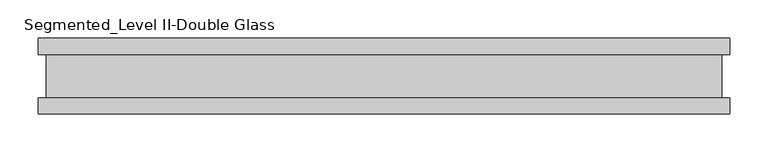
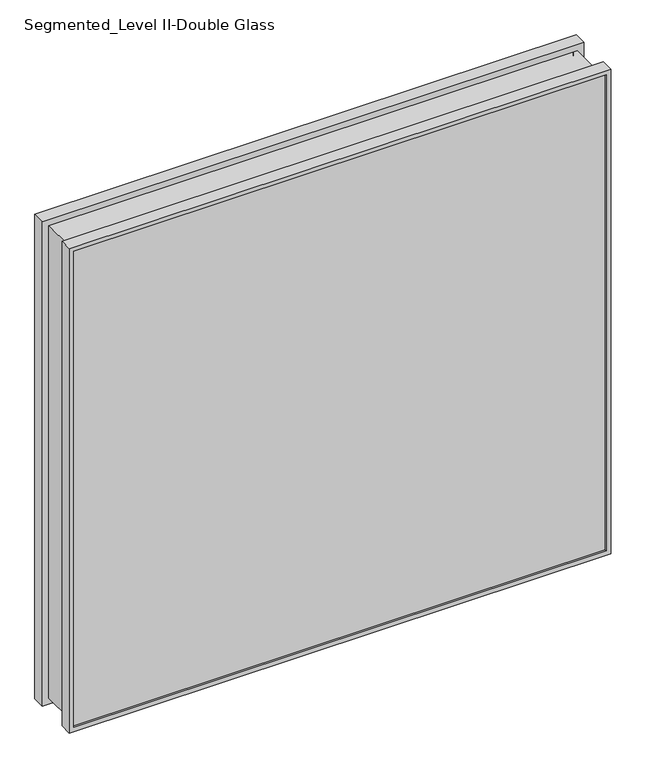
"""IFC4 building model written with IfcOpenShell, lengths in millimetres: proxy geometry, Panel-Fascia-Teknion-Altos-Double_Glass : Segmented_Level II-Double Glass."""

from ifc_helpers import new_model, si_unit, frame, origin, place, context, project, spatial, polyline, ellipse_curve, outline, extrude, source, transform, mapped, element, save
from ifc_brep_helpers import plane_surface, cylinder_surface, advanced_brep


def segmented_level_ii_double_glass_1e1767e1(model_context):
    return source(origin(), model_context, "Body", "SolidModel", [
        advanced_brep(
        [(454.6203125, 50.0558594, 862.965), (454.6203125, 28.2698798, 862.965), (454.6203125, 28.2698798, 3.175), (454.6203125, 50.0558594, 3.175), (447.1851047, 47.1322551, 855.5297922), (447.1851047, 50.0558594, 855.5297922), (447.1851047, 50.0558594, 10.6102078), (447.1851047, 47.1322551, 10.6102078), (452.4677862, 41.1791301, 860.8124737), (452.4677862, 47.1322551, 860.8124737), (452.4677862, 47.1322551, 5.3275263), (452.4677862, 41.1791301, 5.3275263), (446.662897, -40.9277344, 855.0075845), (446.662897, 41.1791301, 855.0075845), (446.662897, 41.1791301, 11.1324155), (446.662897, -40.9277344, 11.1324155), (452.4677862, -46.8808594, 860.8124737), (452.4677862, -40.9277344, 860.8124737), (452.4677862, -40.9277344, 5.3275263), (452.4677862, -46.8808594, 5.3275263), (447.1851047, -50.0558594, 855.5297922), (447.1851047, -46.8808594, 855.5297922), (447.1851047, -46.8808594, 10.6102078), (447.1851047, -50.0558594, 10.6102078), (454.6203125, -28.8801202, 862.965), (454.6203125, -50.0558594, 862.965), (454.6203125, -50.0558594, 3.175), (454.6203125, -28.8801202, 3.175), (443.7684711, 28.2698798, 852.1131586), (443.7684711, -28.8801202, 852.1131586), (443.7684711, -28.8801202, 14.0268414), (443.7684711, 28.2698798, 14.0268414), (-454.6203125, 28.2698798, 3.175), (-454.6203125, 50.0558594, 3.175), (-447.1851047, 50.0558594, 10.6102078), (-447.1851047, 47.1322551, 10.6102078), (-452.4677862, 47.1322551, 5.3275263), (-452.4677862, 41.1791301, 5.3275263), (-446.662897, 41.1791301, 11.1324155), (-446.662897, -40.9277344, 11.1324155), (-452.4677862, -40.9277344, 5.3275263), (-452.4677862, -46.8808594, 5.3275263), (-447.1851047, -46.8808594, 10.6102078), (-447.1851047, -50.0558594, 10.6102078), (-454.6203125, -50.0558594, 3.175), (-454.6203125, -28.8801202, 3.175), (-443.7684711, -28.8801202, 14.0268414), (-443.7684711, 28.2698798, 14.0268414), (-454.6203125, 28.2698798, 862.965), (-454.6203125, 50.0558594, 862.965), (-447.1851047, 50.0558594, 855.5297922), (-447.1851047, 47.1322551, 855.5297922), (-452.4677862, 47.1322551, 860.8124737), (-452.4677862, 41.1791301, 860.8124737), (-446.662897, 41.1791301, 855.0075845), (-446.662897, -40.9277344, 855.0075845), (-452.4677862, -40.9277344, 860.8124737), (-452.4677862, -46.8808594, 860.8124737), (-447.1851047, -46.8808594, 855.5297922), (-447.1851047, -50.0558594, 855.5297922), (-454.6203125, -50.0558594, 862.965), (-454.6203125, -28.8801202, 862.965), (-443.7684711, -28.8801202, 852.1131586), (-443.7684711, 28.2698798, 852.1131586)],
        [
            (0, 1),
            (1, 2),
            (2, 3),
            (3, 0),
            (4, 5),
            (5, 6),
            (6, 7),
            (7, 4),
            (8, 9),
            (9, 10),
            (10, 11),
            (11, 8),
            (12, 13, ellipse_curve(frame((486.0487393, 0.1256979, 894.3934268), z_axis=(0.7071067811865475, 0.0, -0.7071067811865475), x_axis=(0.7071067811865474, 0.0, 0.7071067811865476)), 80.4565581, 56.8913778)),
            (13, 14),
            (14, 15, ellipse_curve(frame((486.0487393, 0.1256979, -28.2534268), z_axis=(0.7071067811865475, 0.0, 0.7071067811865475), x_axis=(-0.7071067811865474, 0.0, 0.7071067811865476)), 80.4565581, 56.8913778)),
            (15, 12),
            (16, 17),
            (17, 18),
            (18, 19),
            (19, 16),
            (20, 21),
            (21, 22),
            (22, 23),
            (23, 20),
            (24, 25),
            (25, 26),
            (26, 27),
            (27, 24),
            (28, 29),
            (29, 30),
            (30, 31),
            (31, 28),
            (2, 32),
            (32, 33),
            (33, 3),
            (6, 34),
            (34, 35),
            (35, 7),
            (10, 36),
            (36, 37),
            (37, 11),
            (14, 38),
            (38, 39, ellipse_curve(frame((-486.0487393, 0.1256979, -28.2534268), z_axis=(0.7071067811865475, 0.0, -0.7071067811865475), x_axis=(0.7071067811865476, 0.0, 0.7071067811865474)), 80.4565581, 56.8913778)),
            (39, 15),
            (18, 40),
            (40, 41),
            (41, 19),
            (22, 42),
            (42, 43),
            (43, 23),
            (26, 44),
            (44, 45),
            (45, 27),
            (30, 46),
            (46, 47),
            (47, 31),
            (32, 48),
            (48, 49),
            (49, 33),
            (34, 50),
            (50, 51),
            (51, 35),
            (36, 52),
            (52, 53),
            (53, 37),
            (38, 54),
            (54, 55, ellipse_curve(frame((-486.0487393, 0.1256979, 894.3934268), z_axis=(-0.7071067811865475, 0.0, -0.7071067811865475), x_axis=(0.7071067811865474, 0.0, -0.7071067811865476)), 80.4565581, 56.8913778)),
            (55, 39),
            (40, 56),
            (56, 57),
            (57, 41),
            (42, 58),
            (58, 59),
            (59, 43),
            (44, 60),
            (60, 61),
            (61, 45),
            (46, 62),
            (62, 63),
            (63, 47),
            (48, 1),
            (0, 49),
            (5, 50),
            (4, 51),
            (9, 52),
            (8, 53),
            (13, 54),
            (12, 55),
            (17, 56),
            (16, 57),
            (21, 58),
            (20, 59),
            (25, 60),
            (24, 61),
            (29, 62),
            (28, 63),
        ],
        [
            plane_surface(frame((454.6203125, 28.2698798, 862.965), z_axis=(1.0, 0.0, 0.0), x_axis=(0.0, 0.0, -1.0))),
            plane_surface(frame((447.1851047, 50.0558594, 855.5297922), z_axis=(-1.0, 0.0, 0.0), x_axis=(0.0, 0.0, -1.0))),
            plane_surface(frame((452.4677862, 47.1322551, 860.8124737), z_axis=(-1.0, 0.0, 0.0), x_axis=(0.0, 0.0, -1.0))),
            cylinder_surface(frame((486.0487393, 0.1256979, 862.965), z_axis=(0.0, 0.0, 1.0), x_axis=(1.0, 0.0, 0.0)), 56.8913778),
            plane_surface(frame((452.4677862, -40.9277344, 860.8124737), z_axis=(-1.0, 0.0, 0.0), x_axis=(0.0, 0.0, -1.0))),
            plane_surface(frame((447.1851047, -46.8808594, 855.5297922), z_axis=(-1.0, 0.0, 0.0), x_axis=(0.0, 0.0, -1.0))),
            plane_surface(frame((454.6203125, -50.0558594, 862.965), z_axis=(1.0, 0.0, 0.0), x_axis=(0.0, 0.0, -1.0))),
            plane_surface(frame((443.7684711, -28.8801202, 852.1131586), z_axis=(1.0, 0.0, 0.0), x_axis=(0.0, 0.0, -1.0))),
            plane_surface(frame((454.6203125, 28.2698798, 3.175), z_axis=(0.0, 0.0, -1.0), x_axis=(-1.0, 0.0, 0.0))),
            plane_surface(frame((447.1851047, 50.0558594, 10.6102078), z_axis=(0.0, 0.0, 1.0), x_axis=(-1.0, 0.0, 0.0))),
            plane_surface(frame((452.4677862, 47.1322551, 5.3275263), z_axis=(0.0, 0.0, 1.0), x_axis=(-1.0, 0.0, 0.0))),
            cylinder_surface(frame((454.6203125, 0.1256979, -28.2534268), z_axis=(1.0, 0.0, 0.0), x_axis=(0.0, 0.0, -1.0)), 56.8913778),
            plane_surface(frame((452.4677862, -40.9277344, 5.3275263), z_axis=(0.0, 0.0, 1.0), x_axis=(-1.0, 0.0, 0.0))),
            plane_surface(frame((447.1851047, -46.8808594, 10.6102078), z_axis=(0.0, 0.0, 1.0), x_axis=(-1.0, 0.0, 0.0))),
            plane_surface(frame((454.6203125, -50.0558594, 3.175), z_axis=(0.0, 0.0, -1.0), x_axis=(-1.0, 0.0, 0.0))),
            plane_surface(frame((443.7684711, -28.8801202, 14.0268414), z_axis=(0.0, 0.0, -1.0), x_axis=(-1.0, 0.0, 0.0))),
            plane_surface(frame((-454.6203125, 28.2698798, 3.175), z_axis=(-1.0, 0.0, 0.0), x_axis=(0.0, 0.0, 1.0))),
            plane_surface(frame((-447.1851047, 50.0558594, 10.6102078), z_axis=(1.0, 0.0, 0.0), x_axis=(0.0, 0.0, 1.0))),
            plane_surface(frame((-452.4677862, 47.1322551, 5.3275263), z_axis=(1.0, 0.0, 0.0), x_axis=(0.0, 0.0, 1.0))),
            cylinder_surface(frame((-486.0487393, 0.1256979, 3.175), z_axis=(0.0, 0.0, -1.0), x_axis=(-1.0, 0.0, 0.0)), 56.8913778),
            plane_surface(frame((-452.4677862, -40.9277344, 5.3275263), z_axis=(1.0, 0.0, 0.0), x_axis=(0.0, 0.0, 1.0))),
            plane_surface(frame((-447.1851047, -46.8808594, 10.6102078), z_axis=(1.0, 0.0, 0.0), x_axis=(0.0, 0.0, 1.0))),
            plane_surface(frame((-454.6203125, -50.0558594, 3.175), z_axis=(-1.0, 0.0, 0.0), x_axis=(0.0, 0.0, 1.0))),
            plane_surface(frame((-443.7684711, -28.8801202, 14.0268414), z_axis=(-1.0, 0.0, 0.0), x_axis=(0.0, 0.0, 1.0))),
            plane_surface(frame((-454.6203125, 28.2698798, 862.965), z_axis=(0.0, 0.0, 1.0), x_axis=(1.0, 0.0, 0.0))),
            plane_surface(frame((-454.6203125, 50.0558594, 862.965), z_axis=(0.0, 1.0, 0.0), x_axis=(1.0, 0.0, 0.0))),
            plane_surface(frame((-447.1851047, 50.0558594, 855.5297922), z_axis=(0.0, 0.0, -1.0), x_axis=(1.0, 0.0, 0.0))),
            plane_surface(frame((-447.1851047, 47.1322551, 855.5297922), z_axis=(0.0, -1.0, 0.0), x_axis=(1.0, 0.0, 0.0))),
            plane_surface(frame((-452.4677862, 47.1322551, 860.8124737), z_axis=(0.0, 0.0, -1.0), x_axis=(1.0, 0.0, 0.0))),
            plane_surface(frame((-452.4677862, 41.1791301, 860.8124737), z_axis=(0.0, 1.0, 0.0), x_axis=(1.0, 0.0, 0.0))),
            cylinder_surface(frame((-454.6203125, 0.1256979, 894.3934268), z_axis=(-1.0, 0.0, 0.0), x_axis=(0.0, 0.0, 1.0)), 56.8913778),
            plane_surface(frame((-446.662897, -40.9277344, 855.0075845), z_axis=(0.0, -1.0, 0.0), x_axis=(1.0, 0.0, 0.0))),
            plane_surface(frame((-452.4677862, -40.9277344, 860.8124737), z_axis=(0.0, 0.0, -1.0), x_axis=(1.0, 0.0, 0.0))),
            plane_surface(frame((-452.4677862, -46.8808594, 860.8124737), z_axis=(0.0, 1.0, 0.0), x_axis=(1.0, 0.0, 0.0))),
            plane_surface(frame((-447.1851047, -46.8808594, 855.5297922), z_axis=(0.0, 0.0, -1.0), x_axis=(1.0, 0.0, 0.0))),
            plane_surface(frame((-447.1851047, -50.0558594, 855.5297922), z_axis=(0.0, -1.0, 0.0), x_axis=(1.0, 0.0, 0.0))),
            plane_surface(frame((-454.6203125, -50.0558594, 862.965), z_axis=(0.0, 0.0, 1.0), x_axis=(1.0, 0.0, 0.0))),
            plane_surface(frame((-454.6203125, -28.8801202, 862.965), z_axis=(0.0, 1.0, 0.0), x_axis=(1.0, 0.0, 0.0))),
            plane_surface(frame((-443.7684711, -28.8801202, 852.1131586), z_axis=(0.0, 0.0, 1.0), x_axis=(1.0, 0.0, 0.0))),
            plane_surface(frame((-443.7684711, 28.2698798, 852.1131586), z_axis=(0.0, -1.0, 0.0), x_axis=(1.0, 0.0, 0.0))),
        ],
        [
            (0, [[1, 2, 3, 4]]),
            (1, [[5, 6, 7, 8]]),
            (2, [[9, 10, 11, 12]]),
            (3, [[13, 14, 15, 16]]),
            (4, [[17, 18, 19, 20]]),
            (5, [[21, 22, 23, 24]]),
            (6, [[25, 26, 27, 28]]),
            (7, [[29, 30, 31, 32]]),
            (8, [[-3, 33, 34, 35]]),
            (9, [[-7, 36, 37, 38]]),
            (10, [[-11, 39, 40, 41]]),
            (11, [[-15, 42, 43, 44]]),
            (12, [[-19, 45, 46, 47]]),
            (13, [[-23, 48, 49, 50]]),
            (14, [[-27, 51, 52, 53]]),
            (15, [[-31, 54, 55, 56]]),
            (16, [[-34, 57, 58, 59]]),
            (17, [[-37, 60, 61, 62]]),
            (18, [[-40, 63, 64, 65]]),
            (19, [[-43, 66, 67, 68]]),
            (20, [[-46, 69, 70, 71]]),
            (21, [[-49, 72, 73, 74]]),
            (22, [[-52, 75, 76, 77]]),
            (23, [[-55, 78, 79, 80]]),
            (24, [[-58, 81, -1, 82]]),
            (25, [[-35, -59, -82, -4], [83, -60, -36, -6]]),
            (26, [[-61, -83, -5, 84]]),
            (27, [[85, -63, -39, -10], [-38, -62, -84, -8]]),
            (28, [[-64, -85, -9, 86]]),
            (29, [[-41, -65, -86, -12], [87, -66, -42, -14]]),
            (30, [[-67, -87, -13, 88]]),
            (31, [[89, -69, -45, -18], [-44, -68, -88, -16]]),
            (32, [[-70, -89, -17, 90]]),
            (33, [[-47, -71, -90, -20], [91, -72, -48, -22]]),
            (34, [[-73, -91, -21, 92]]),
            (35, [[93, -75, -51, -26], [-50, -74, -92, -24]]),
            (36, [[-76, -93, -25, 94]]),
            (37, [[-53, -77, -94, -28], [95, -78, -54, -30]]),
            (38, [[-79, -95, -29, 96]]),
            (39, [[-81, -57, -33, -2], [-56, -80, -96, -32]]),
        ],
    ),
        extrude(outline(polyline([(452.4677862, -40.9277344), (452.4677862, -46.8808594), (-452.4677862, -46.8808594), (-452.4677862, -40.9277344), (452.4677862, -40.9277344)])), frame((0.0, 0.0, 5.3275263), z_axis=(0.0, 0.0, 1.0), x_axis=(1.0, 0.0, 0.0)), (0.0, 0.0, 1.0), 854.990928),
        extrude(outline(polyline([(452.4677862, 41.1791301), (-452.4677862, 41.1791301), (-452.4677862, 47.1322551), (452.4677862, 47.1322551), (452.4677862, 41.1791301)])), frame((0.0, 0.0, 5.3275263), z_axis=(0.0, 0.0, 1.0), x_axis=(1.0, 0.0, 0.0)), (0.0, 0.0, 1.0), 854.990928),
    ])


if __name__ == "__main__":
    model = new_model("IFC4")
    model_context = context("Model", 3, world=origin())
    ifc_project = project(units=[si_unit("LENGTHUNIT", "METRE", prefix="MILLI")], contexts=[model_context])
    site = spatial("IfcSite", under=ifc_project)
    building = spatial("IfcBuilding", under=site)
    placement = place(None, origin())
    segmented_level_ii_double_glass_shape = segmented_level_ii_double_glass_1e1767e1(model_context)
    element("IfcBuildingElementProxy", 1, Name="Panel-Fascia-Teknion-Altos-Double_Glass : Segmented_Level II-Double Glass", ObjectType="Panel-Fascia-Teknion-Altos-Double_Glass : Segmented_Level II-Double Glass", at=placement, inside=building, context=model_context, shape_type="MappedRepresentation", body=[
        mapped(segmented_level_ii_double_glass_shape, transform((0.0, 0.0, 0.0), x_axis=(1.0, 0.0, 0.0), y_axis=(0.0, 1.0, 0.0), z_axis=(0.0, 0.0, 1.0))),
    ])
    save(model, "model.ifc")
